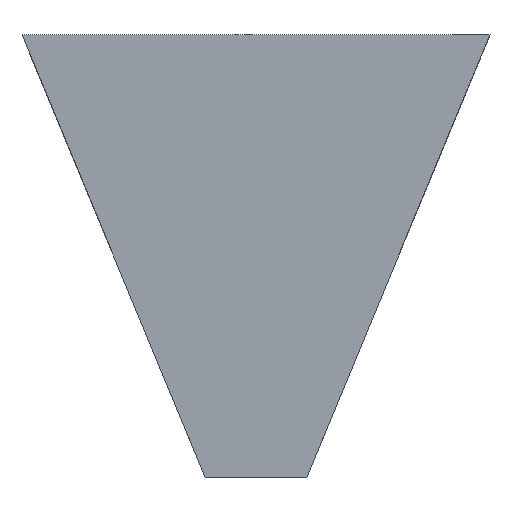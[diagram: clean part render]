
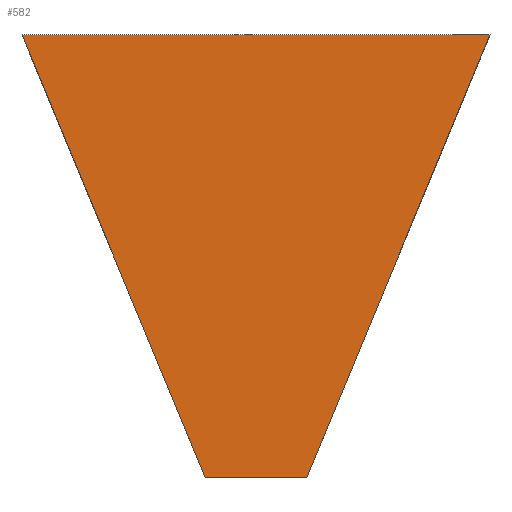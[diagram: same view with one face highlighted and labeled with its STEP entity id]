
A CAD part, front view. The second image highlights one B-rep face of the part: STEP entity #582.
In plain terms, the highlighted planar face has unit normal (0, -1, 0).
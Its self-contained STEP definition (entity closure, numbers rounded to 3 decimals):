
#1=DIRECTION('',(0.383,0.,-0.924));
#2=VECTOR('',#1,45.);
#3=CARTESIAN_POINT('',(-22.,-45.,0.));
#4=LINE('',#3,#2);
#5=DIRECTION('',(-0.383,0.,-0.924));
#6=VECTOR('',#5,45.);
#7=CARTESIAN_POINT('',(22.,-45.,0.));
#8=LINE('',#7,#6);
#17=DIRECTION('',(1.,0.,0.));
#18=VECTOR('',#17,9.558);
#19=CARTESIAN_POINT('',(-4.779,-45.,-41.575));
#20=LINE('',#19,#18);
#43=DIRECTION('',(-1.,0.,0.));
#44=VECTOR('',#43,44.);
#45=CARTESIAN_POINT('',(22.,-45.,0.));
#46=LINE('',#45,#44);
#469=CARTESIAN_POINT('',(22.,-45.,0.));
#470=CARTESIAN_POINT('',(4.779,-45.,-41.575));
#471=VERTEX_POINT('',#469);
#472=VERTEX_POINT('',#470);
#497=CARTESIAN_POINT('',(-22.,-45.,0.));
#498=CARTESIAN_POINT('',(-4.779,-45.,-41.575));
#499=VERTEX_POINT('',#497);
#500=VERTEX_POINT('',#498);
#567=CARTESIAN_POINT('',(0.,-45.,0.));
#568=DIRECTION('',(0.,1.,0.));
#569=DIRECTION('',(1.,0.,0.));
#570=AXIS2_PLACEMENT_3D('',#567,#568,#569);
#571=PLANE('',#570);
#573=ORIENTED_EDGE('',*,*,#572,.F.);
#575=ORIENTED_EDGE('',*,*,#574,.F.);
#577=ORIENTED_EDGE('',*,*,#576,.F.);
#579=ORIENTED_EDGE('',*,*,#578,.T.);
#580=EDGE_LOOP('',(#573,#575,#577,#579));
#581=FACE_OUTER_BOUND('',#580,.F.);
#582=ADVANCED_FACE('',(#581),#571,.F.);
#572=EDGE_CURVE('',#500,#472,#20,.T.);
#574=EDGE_CURVE('',#499,#500,#4,.T.);
#576=EDGE_CURVE('',#471,#499,#46,.T.);
#578=EDGE_CURVE('',#471,#472,#8,.T.);
